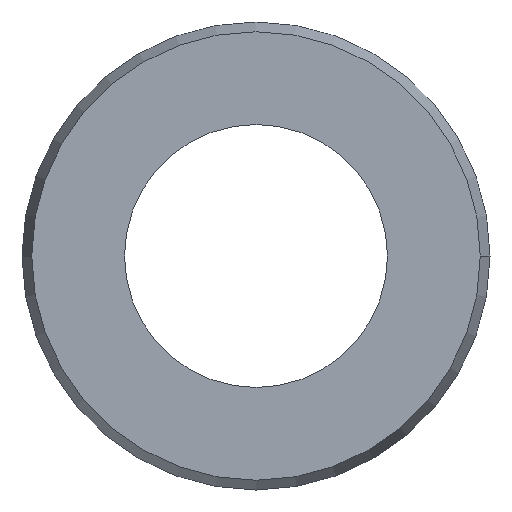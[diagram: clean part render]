
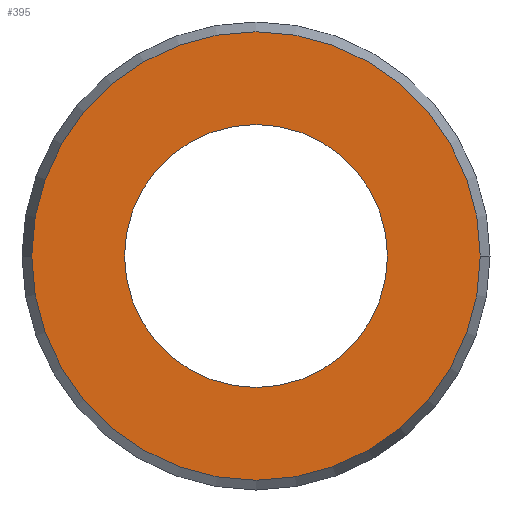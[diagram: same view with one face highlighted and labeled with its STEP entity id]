
A CAD part, left-side view. The second image highlights one B-rep face of the part: STEP entity #395.
In plain terms, the highlighted planar face has unit normal (-1, 0, 0).
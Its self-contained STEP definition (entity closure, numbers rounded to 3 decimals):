
#1=CARTESIAN_POINT('',(-3.,0.,0.));
#2=DIRECTION('',(1.,0.,0.));
#3=DIRECTION('',(0.,1.,0.));
#4=AXIS2_PLACEMENT_3D('',#1,#2,#3);
#14=CARTESIAN_POINT('',(-3.,0.,0.));
#15=DIRECTION('',(-1.,0.,0.));
#16=DIRECTION('',(0.,1.,0.));
#17=AXIS2_PLACEMENT_3D('',#14,#15,#16);
#117=CARTESIAN_POINT('',(-3.,0.,0.));
#118=DIRECTION('',(-1.,0.,0.));
#119=DIRECTION('',(0.,1.,0.));
#120=AXIS2_PLACEMENT_3D('',#117,#118,#119);
#122=CARTESIAN_POINT('',(-3.,0.,0.));
#123=DIRECTION('',(-1.,0.,0.));
#124=DIRECTION('',(0.,-1.,0.));
#125=AXIS2_PLACEMENT_3D('',#122,#123,#124);
#149=CARTESIAN_POINT('',(-3.,2.95,0.));
#151=VERTEX_POINT('',#149);
#157=CARTESIAN_POINT('',(-3.,-2.95,0.));
#159=VERTEX_POINT('',#157);
#181=CARTESIAN_POINT('',(-3.,5.032,0.));
#182=CARTESIAN_POINT('',(-3.,-5.032,0.));
#183=VERTEX_POINT('',#181);
#184=VERTEX_POINT('',#182);
#381=CARTESIAN_POINT('',(-3.,0.,0.));
#382=DIRECTION('',(1.,0.,0.));
#383=DIRECTION('',(0.,-1.,0.));
#384=AXIS2_PLACEMENT_3D('',#381,#382,#383);
#385=PLANE('',#384);
#387=ORIENTED_EDGE('',*,*,#386,.F.);
#388=ORIENTED_EDGE('',*,*,#371,.F.);
#389=EDGE_LOOP('',(#387,#388));
#390=FACE_OUTER_BOUND('',#389,.F.);
#391=ORIENTED_EDGE('',*,*,#196,.F.);
#392=ORIENTED_EDGE('',*,*,#214,.T.);
#393=EDGE_LOOP('',(#391,#392));
#394=FACE_BOUND('',#393,.F.);
#395=ADVANCED_FACE('',(#390,#394),#385,.F.);
#5=CIRCLE('',#4,2.95);
#18=CIRCLE('',#17,2.95);
#121=CIRCLE('',#120,5.032);
#126=CIRCLE('',#125,5.032);
#196=EDGE_CURVE('',#151,#159,#5,.T.);
#214=EDGE_CURVE('',#151,#159,#18,.T.);
#371=EDGE_CURVE('',#184,#183,#126,.T.);
#386=EDGE_CURVE('',#183,#184,#121,.T.);
